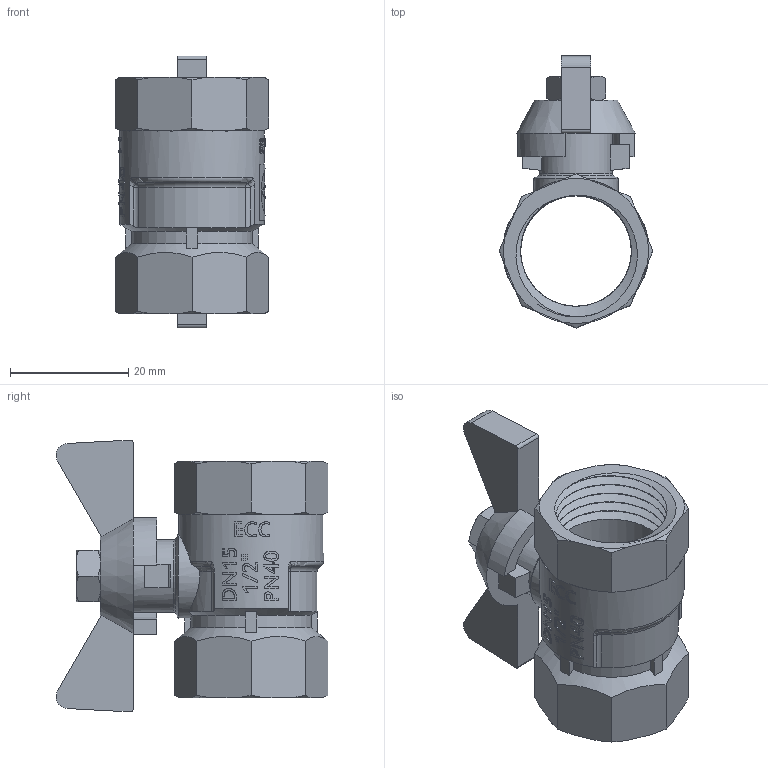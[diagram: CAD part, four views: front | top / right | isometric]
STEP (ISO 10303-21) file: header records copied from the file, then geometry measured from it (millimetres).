
FILE_DESCRIPTION(/* description */ (''),/* implementation_level */ '2;1');
FILE_NAME(/* name */ 'H:\Мишенин_3D\Исходные файлы 3D\VT.092.N.04.stp',/* time_stamp */ '2018-01-17T10:46:46+03:00',/* author */ ('MisheninAL'),/* organization */ (''),/* preprocessor_version */ 'ST-DEVELOPER v16.13',/* originating_system */ 'Autodesk Inventor 2018',/* authorisation */ '');
FILE_SCHEMA (('AUTOMOTIVE_DESIGN { 1 0 10303 214 3 1 1 }'));
Length unit declared in the file: millimetre
Products named in the file (1): VT.090_ВB_1%2
Bounding box: 25.98 x 45.96 x 45.94 mm (x, y, z)
Volume: 10559 mm3; surface area: 9818 mm2
Topology: 1 solids, 1 shells, 427 faces, 1147 edges, 752 vertices
Faces by surface type: plane 187, bspline 115, cylinder 65, cone 49, torus 7, sphere 4
Full cylindrical faces by diameter (mm): 12.276 x1, 14.276 x1, 18.7 x9, 24.5 x1
Entity records: 19468 total; most frequent: CARTESIAN_POINT 9926, ORIENTED_EDGE 2212, DIRECTION 1633, EDGE_CURVE 1106, VERTEX_POINT 728, AXIS2_PLACEMENT_3D 560, LINE 513, VECTOR 513
